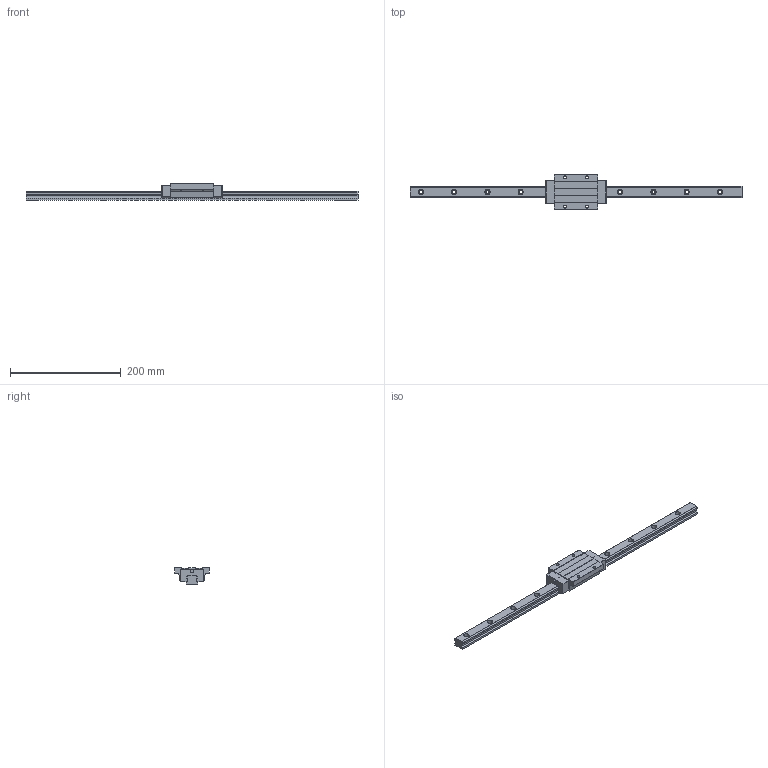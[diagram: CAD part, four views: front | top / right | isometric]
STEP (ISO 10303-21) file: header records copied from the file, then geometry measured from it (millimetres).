
FILE_DESCRIPTION (( 'STEP AP203' ), '1' );
FILE_NAME ('TRH20FE-ZN-§ï.STEP', '2023-08-29T08:10:40', ( '' ), ( '' ), 'SwSTEP 2.0', 'SolidWorks 2022', '' );
FILE_SCHEMA (( 'CONFIG_CONTROL_DESIGN' ));
Length unit declared in the file: millimetre
Products named in the file (1): TRH20FE-ZN-改
Bounding box: 600 x 63 x 30 mm (x, y, z)
Volume: 272416.8 mm3; surface area: 69851.1 mm2
Topology: 1 solids, 1 shells, 187 faces, 530 edges, 346 vertices
Faces by surface type: cylinder 100, plane 83, sphere 4
Entity records: 6541 total; most frequent: CARTESIAN_POINT 1420, DIRECTION 1078, ORIENTED_EDGE 1052, EDGE_CURVE 526, AXIS2_PLACEMENT_3D 382, VERTEX_POINT 346, LINE 314, VECTOR 314
